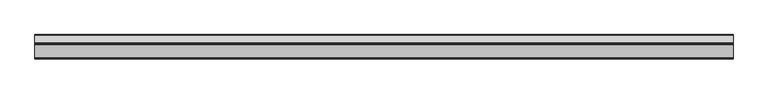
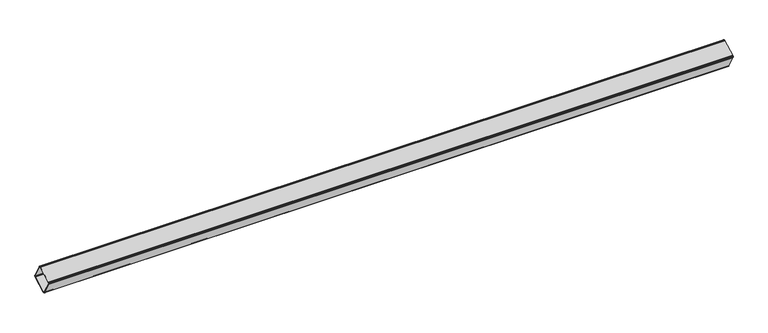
"""IFC4 building model written with IfcOpenShell, lengths in millimetres: beam geometry, Buton 184160 : Buton 184160."""

from ifc_helpers import new_model, si_unit, frame, origin, place, context, project, spatial, polyline, outline, extrude, source, transform, mapped, element, save


def beam_3a8f4c1c(model_context):
    return source(origin(), model_context, "Body", "SweptSolid", [
        extrude(outline(polyline([(-16297.5277892, 10145.6096056), (-16224.153053, 10186.501513), (-16221.8030118, 10187.3629491), (-16219.3017914, 10187.4560209), (-16216.8942286, 10186.7716177), (-16214.8159926, 10185.3767339), (-16213.2705155, 10183.4079103), (-16172.3786081, 10110.0331741), (-16171.517172, 10107.6831329), (-16171.4241002, 10105.1819125), (-16172.1085034, 10102.7743498), (-16173.5033872, 10100.6961137), (-16175.4722108, 10099.1506366), (-16248.846947, 10058.2587292), (-16251.1969882, 10057.3972931), (-16253.6982086, 10057.3042213), (-16256.1057714, 10057.9886245), (-16258.1840074, 10059.3835083), (-16259.7294845, 10061.3523319), (-16300.6213919, 10134.7270681), (-16301.482828, 10137.0771093), (-16301.5758998, 10139.5783297), (-16300.8914966, 10141.9858925), (-16299.4966128, 10144.0641285), (-16297.5277892, 10145.6096056)]), holes=[polyline([(-16297.1273569, 10136.6743018), (-16256.2354494, 10063.2995656), (-16255.4627109, 10062.3151538), (-16254.4235929, 10061.6177119), (-16253.2198115, 10061.2755103), (-16251.9692013, 10061.3220462), (-16250.7941807, 10061.7527643), (-16177.4194445, 10102.6446717), (-16176.4350327, 10103.4174102), (-16175.7375908, 10104.4565283), (-16175.3953892, 10105.6603096), (-16175.4419251, 10106.9109198), (-16175.8726431, 10108.0859404), (-16216.7645506, 10181.4606766), (-16217.5372891, 10182.4450884), (-16218.5764071, 10183.1425303), (-16219.7801885, 10183.4847319), (-16221.0307987, 10183.438196), (-16222.2058193, 10183.007478), (-16295.5805555, 10142.1155705), (-16296.5649673, 10141.342832), (-16297.2624092, 10140.303714), (-16297.6046108, 10139.0999326), (-16297.5580749, 10137.8493224), (-16297.1273569, 10136.6743018)])]), frame((3787.4999999, 0.0, 0.0), z_axis=(1.0, 0.0, 0.0), x_axis=(0.0, 1.0, 0.0)), (0.0, 0.0, 1.0), 3742.5),
    ])


if __name__ == "__main__":
    model = new_model("IFC4")
    model_context = context("Model", 3, world=origin())
    ifc_project = project(units=[si_unit("LENGTHUNIT", "METRE", prefix="MILLI")], contexts=[model_context])
    site = spatial("IfcSite", under=ifc_project)
    building = spatial("IfcBuilding", under=site)
    placement = place(None, origin())
    beam_shape = beam_3a8f4c1c(model_context)
    element("IfcBeam", 1, ObjectType="Buton 184160 : Buton 184160", at=placement, inside=building, context=model_context, shape_type="MappedRepresentation", body=[
        mapped(beam_shape, transform((0.0, 0.0, 0.0), x_axis=(1.0, 0.0, 0.0), y_axis=(0.0, 1.0, 0.0), z_axis=(0.0, 0.0, 1.0))),
    ])
    save(model, "model.ifc")
